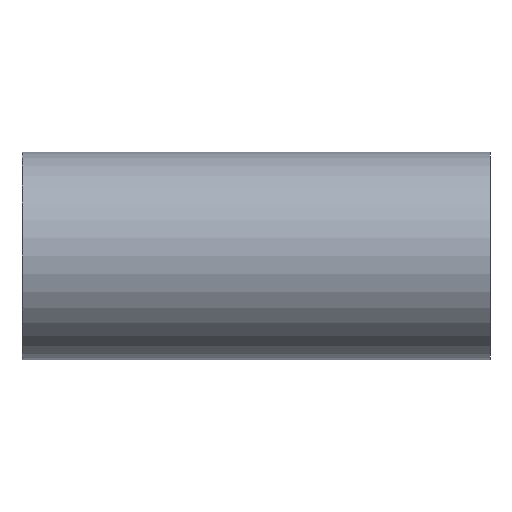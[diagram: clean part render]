
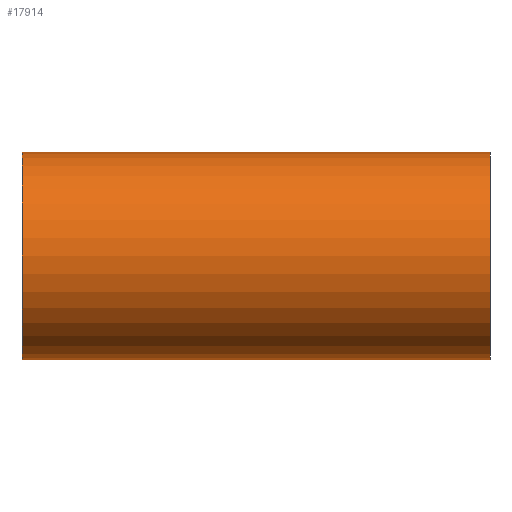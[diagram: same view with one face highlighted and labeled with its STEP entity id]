
A CAD part, left-side view. The second image highlights one B-rep face of the part: STEP entity #17914.
In plain terms, the highlighted cylindrical face has radius 15.975 mm (diameter 31.95 mm), a partial arc.
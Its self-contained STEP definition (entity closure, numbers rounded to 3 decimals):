
#215 = LINE ( 'NONE', #43590, #41021 ) ;
#467 = AXIS2_PLACEMENT_3D ( 'NONE', #40652, #43946, #782 ) ;
#782 = DIRECTION ( 'NONE',  ( 0., 0., 1. ) ) ;
#2213 = FACE_OUTER_BOUND ( 'NONE', #26165, .T. ) ;
#2638 = CARTESIAN_POINT ( 'NONE',  ( 0., 0., -15.975 ) ) ;
#3771 = EDGE_CURVE ( 'NONE', #36829, #44341, #215, .T. ) ;
#6410 = EDGE_CURVE ( 'NONE', #23520, #44341, #31223, .T. ) ;
#6583 = DIRECTION ( 'NONE',  ( 0., 0., 1. ) ) ;
#13944 = EDGE_CURVE ( 'NONE', #31314, #36829, #15392, .T. ) ;
#14157 = DIRECTION ( 'NONE',  ( 0., -1., 0. ) ) ;
#15392 = CIRCLE ( 'NONE', #34872, 15.975 ) ;
#15774 = DIRECTION ( 'NONE',  ( 0., -1., 0. ) ) ;
#15781 = CYLINDRICAL_SURFACE ( 'NONE', #31235, 15.975 ) ;
#16504 = DIRECTION ( 'NONE',  ( 0., -1., 0. ) ) ;
#16597 = ORIENTED_EDGE ( 'NONE', *, *, #13944, .F. ) ;
#17613 = CARTESIAN_POINT ( 'NONE',  ( 0., 72., 0. ) ) ;
#17914 = ADVANCED_FACE ( 'NONE', ( #2213 ), #15781, .T. ) ;
#23520 = VERTEX_POINT ( 'NONE', #2638 ) ;
#23595 = CARTESIAN_POINT ( 'NONE',  ( 0., 72., -15.975 ) ) ;
#26158 = DIRECTION ( 'NONE',  ( 0., 1., 0. ) ) ;
#26165 = EDGE_LOOP ( 'NONE', ( #44014, #16597, #26422, #28791 ) ) ;
#26422 = ORIENTED_EDGE ( 'NONE', *, *, #51158, .T. ) ;
#28791 = ORIENTED_EDGE ( 'NONE', *, *, #6410, .T. ) ;
#30025 = LINE ( 'NONE', #23595, #31831 ) ;
#31223 = CIRCLE ( 'NONE', #467, 15.975 ) ;
#31235 = AXIS2_PLACEMENT_3D ( 'NONE', #17613, #14157, #41738 ) ;
#31314 = VERTEX_POINT ( 'NONE', #39643 ) ;
#31831 = VECTOR ( 'NONE', #15774, 1000. ) ;
#34840 = CARTESIAN_POINT ( 'NONE',  ( 0., 72., 15.975 ) ) ;
#34872 = AXIS2_PLACEMENT_3D ( 'NONE', #49754, #26158, #6583 ) ;
#35486 = CARTESIAN_POINT ( 'NONE',  ( 0., 0., 15.975 ) ) ;
#36829 = VERTEX_POINT ( 'NONE', #34840 ) ;
#39643 = CARTESIAN_POINT ( 'NONE',  ( 0., 72., -15.975 ) ) ;
#40652 = CARTESIAN_POINT ( 'NONE',  ( 0., 0., 0. ) ) ;
#41021 = VECTOR ( 'NONE', #16504, 1000. ) ;
#41738 = DIRECTION ( 'NONE',  ( 0., 0., -1. ) ) ;
#43590 = CARTESIAN_POINT ( 'NONE',  ( 0., 72., 15.975 ) ) ;
#43946 = DIRECTION ( 'NONE',  ( 0., 1., 0. ) ) ;
#44014 = ORIENTED_EDGE ( 'NONE', *, *, #3771, .F. ) ;
#44341 = VERTEX_POINT ( 'NONE', #35486 ) ;
#49754 = CARTESIAN_POINT ( 'NONE',  ( 0., 72., 0. ) ) ;
#51158 = EDGE_CURVE ( 'NONE', #31314, #23520, #30025, .T. ) ;
